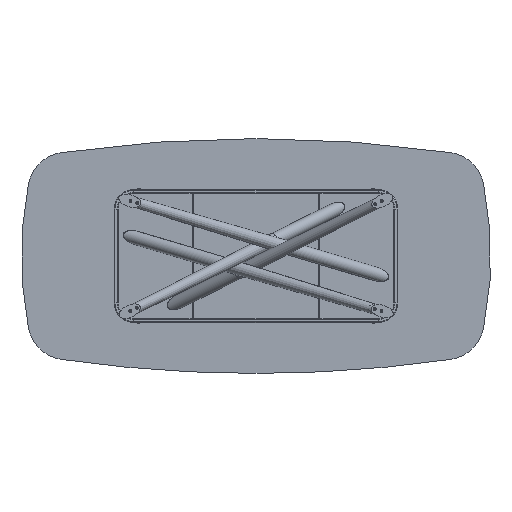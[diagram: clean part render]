
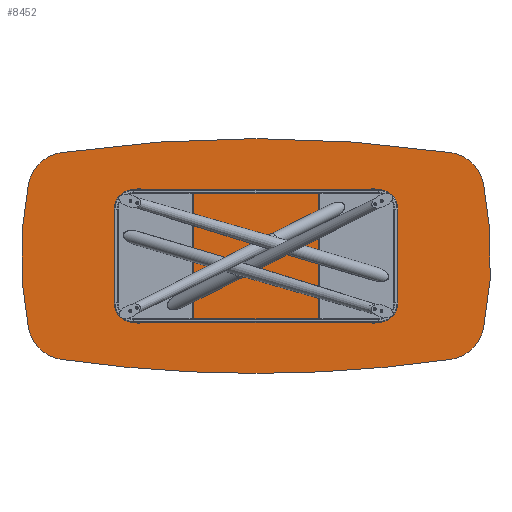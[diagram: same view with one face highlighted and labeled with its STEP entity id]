
A CAD part, front view. The second image highlights one B-rep face of the part: STEP entity #8452.
In plain terms, the highlighted planar face has unit normal (0, -1, 0).
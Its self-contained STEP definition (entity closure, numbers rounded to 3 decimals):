
#157 = DIRECTION ( 'NONE',  ( 0., -1., 0. ) ) ;
#331 = DIRECTION ( 'NONE',  ( 0., 0., 1. ) ) ;
#504 = AXIS2_PLACEMENT_3D ( 'NONE', #4366, #6948, #331 ) ;
#579 = DIRECTION ( 'NONE',  ( 0., 1., 0. ) ) ;
#716 = CARTESIAN_POINT ( 'NONE',  ( 645., 0., 0. ) ) ;
#907 = CIRCLE ( 'NONE', #9874, 200. ) ;
#918 = EDGE_CURVE ( 'NONE', #9679, #9449, #7830, .T. ) ;
#982 = CIRCLE ( 'NONE', #9268, 200. ) ;
#995 = AXIS2_PLACEMENT_3D ( 'NONE', #7400, #7452, #3384 ) ;
#1127 = EDGE_LOOP ( 'NONE', ( #8937, #9689, #8241, #2847, #9260, #5217, #5868, #1822, #3998 ) ) ;
#1490 = EDGE_CURVE ( 'NONE', #9679, #8263, #907, .T. ) ;
#1797 = DIRECTION ( 'NONE',  ( 0., 0., 1. ) ) ;
#1822 = ORIENTED_EDGE ( 'NONE', *, *, #918, .F. ) ;
#2081 = FACE_OUTER_BOUND ( 'NONE', #1127, .T. ) ;
#2349 = CARTESIAN_POINT ( 'NONE',  ( -995.103, 0., -528.391 ) ) ;
#2666 = AXIS2_PLACEMENT_3D ( 'NONE', #4174, #5660, #7281 ) ;
#2679 = CARTESIAN_POINT ( 'NONE',  ( 1162.39, 0., 370.629 ) ) ;
#2749 = CARTESIAN_POINT ( 'NONE',  ( 0., 0., -600. ) ) ;
#2847 = ORIENTED_EDGE ( 'NONE', *, *, #4989, .T. ) ;
#3031 = DIRECTION ( 'NONE',  ( 0., -1., 0. ) ) ;
#3037 = DIRECTION ( 'NONE',  ( 0., -1., 0. ) ) ;
#3384 = DIRECTION ( 'NONE',  ( 0., 0., 1. ) ) ;
#3586 = CARTESIAN_POINT ( 'NONE',  ( 995.103, 0., -528.391 ) ) ;
#3703 = VERTEX_POINT ( 'NONE', #7769 ) ;
#3919 = CIRCLE ( 'NONE', #4926, 200. ) ;
#3968 = DIRECTION ( 'NONE',  ( 0., 1., 0. ) ) ;
#3998 = ORIENTED_EDGE ( 'NONE', *, *, #1490, .T. ) ;
#4118 = DIRECTION ( 'NONE',  ( 0., 1., 0. ) ) ;
#4174 = CARTESIAN_POINT ( 'NONE',  ( 0., 0., 6350. ) ) ;
#4249 = EDGE_CURVE ( 'NONE', #5846, #10448, #8589, .T. ) ;
#4297 = EDGE_CURVE ( 'NONE', #7439, #7713, #9935, .T. ) ;
#4366 = CARTESIAN_POINT ( 'NONE',  ( -322.5, 0., 3175. ) ) ;
#4926 = AXIS2_PLACEMENT_3D ( 'NONE', #7309, #157, #1797 ) ;
#4989 = EDGE_CURVE ( 'NONE', #7439, #10448, #982, .T. ) ;
#5041 = AXIS2_PLACEMENT_3D ( 'NONE', #716, #3968, #8040 ) ;
#5217 = ORIENTED_EDGE ( 'NONE', *, *, #8118, .F. ) ;
#5303 = CARTESIAN_POINT ( 'NONE',  ( -645., 0., 0. ) ) ;
#5363 = DIRECTION ( 'NONE',  ( 0., 0., 1. ) ) ;
#5473 = DIRECTION ( 'NONE',  ( 0., 0., 1. ) ) ;
#5601 = DIRECTION ( 'NONE',  ( 0., 1., 0. ) ) ;
#5660 = DIRECTION ( 'NONE',  ( 0., 1., 0. ) ) ;
#5751 = DIRECTION ( 'NONE',  ( 0., 0., 1. ) ) ;
#5846 = VERTEX_POINT ( 'NONE', #2749 ) ;
#5868 = ORIENTED_EDGE ( 'NONE', *, *, #5943, .T. ) ;
#5881 = CARTESIAN_POINT ( 'NONE',  ( -1162.39, 0., -370.629 ) ) ;
#5943 = EDGE_CURVE ( 'NONE', #6073, #9449, #8793, .T. ) ;
#6073 = VERTEX_POINT ( 'NONE', #3586 ) ;
#6140 = DIRECTION ( 'NONE',  ( 0., 0., 1. ) ) ;
#6317 = AXIS2_PLACEMENT_3D ( 'NONE', #5303, #579, #6140 ) ;
#6594 = CARTESIAN_POINT ( 'NONE',  ( 995.103, 0., 528.391 ) ) ;
#6929 = EDGE_CURVE ( 'NONE', #3703, #8263, #9949, .T. ) ;
#6948 = DIRECTION ( 'NONE',  ( 0., 1., 0. ) ) ;
#7050 = CARTESIAN_POINT ( 'NONE',  ( 966.467, 0., 330.452 ) ) ;
#7179 = CARTESIAN_POINT ( 'NONE',  ( 0., 0., 6350. ) ) ;
#7271 = CIRCLE ( 'NONE', #9468, 6950. ) ;
#7281 = DIRECTION ( 'NONE',  ( 0., 0., 1. ) ) ;
#7309 = CARTESIAN_POINT ( 'NONE',  ( -966.467, 0., 330.452 ) ) ;
#7360 = CARTESIAN_POINT ( 'NONE',  ( -1162.39, 0., 370.629 ) ) ;
#7400 = CARTESIAN_POINT ( 'NONE',  ( 966.467, 0., -330.452 ) ) ;
#7439 = VERTEX_POINT ( 'NONE', #5881 ) ;
#7452 = DIRECTION ( 'NONE',  ( 0., -1., 0. ) ) ;
#7713 = VERTEX_POINT ( 'NONE', #7360 ) ;
#7769 = CARTESIAN_POINT ( 'NONE',  ( -995.103, 0., 528.391 ) ) ;
#7830 = CIRCLE ( 'NONE', #6317, 1845. ) ;
#8040 = DIRECTION ( 'NONE',  ( 0., 0., 1. ) ) ;
#8118 = EDGE_CURVE ( 'NONE', #6073, #5846, #7271, .T. ) ;
#8133 = CARTESIAN_POINT ( 'NONE',  ( 0., 0., -6350. ) ) ;
#8241 = ORIENTED_EDGE ( 'NONE', *, *, #4297, .F. ) ;
#8263 = VERTEX_POINT ( 'NONE', #6594 ) ;
#8265 = AXIS2_PLACEMENT_3D ( 'NONE', #8133, #4118, #5751 ) ;
#8452 = ADVANCED_FACE ( 'NONE', ( #2081 ), #8552, .F. ) ;
#8552 = PLANE ( 'NONE',  #504 ) ;
#8586 = CARTESIAN_POINT ( 'NONE',  ( -966.467, 0., -330.452 ) ) ;
#8589 = CIRCLE ( 'NONE', #2666, 6950. ) ;
#8736 = CARTESIAN_POINT ( 'NONE',  ( 1162.39, 0., -370.629 ) ) ;
#8793 = CIRCLE ( 'NONE', #995, 200. ) ;
#8829 = DIRECTION ( 'NONE',  ( 0., 0., 1. ) ) ;
#8937 = ORIENTED_EDGE ( 'NONE', *, *, #6929, .F. ) ;
#9228 = EDGE_CURVE ( 'NONE', #3703, #7713, #3919, .T. ) ;
#9260 = ORIENTED_EDGE ( 'NONE', *, *, #4249, .F. ) ;
#9268 = AXIS2_PLACEMENT_3D ( 'NONE', #8586, #3031, #5363 ) ;
#9449 = VERTEX_POINT ( 'NONE', #8736 ) ;
#9468 = AXIS2_PLACEMENT_3D ( 'NONE', #7179, #5601, #8829 ) ;
#9679 = VERTEX_POINT ( 'NONE', #2679 ) ;
#9689 = ORIENTED_EDGE ( 'NONE', *, *, #9228, .T. ) ;
#9874 = AXIS2_PLACEMENT_3D ( 'NONE', #7050, #3037, #5473 ) ;
#9935 = CIRCLE ( 'NONE', #5041, 1845. ) ;
#9949 = CIRCLE ( 'NONE', #8265, 6950. ) ;
#10448 = VERTEX_POINT ( 'NONE', #2349 ) ;
